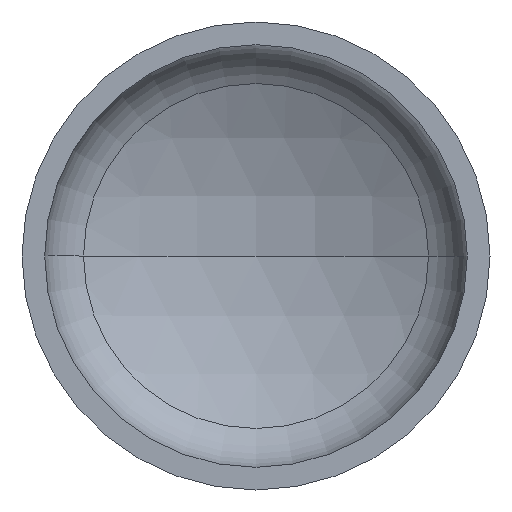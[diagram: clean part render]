
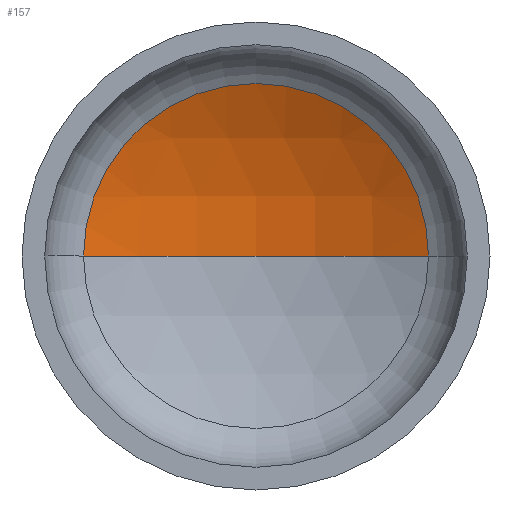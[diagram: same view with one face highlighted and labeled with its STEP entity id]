
A CAD part, front view. The second image highlights one B-rep face of the part: STEP entity #157.
In plain terms, the highlighted spherical face has radius 1120 mm.
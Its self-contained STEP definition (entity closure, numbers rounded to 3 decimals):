
#10 = EDGE_LOOP ( 'NONE', ( #37, #23, #155 ) ) ;
#23 = ORIENTED_EDGE ( 'NONE', *, *, #159, .T. ) ;
#37 = ORIENTED_EDGE ( 'NONE', *, *, #163, .F. ) ;
#46 = AXIS2_PLACEMENT_3D ( 'NONE', #214, #259, #255 ) ;
#47 = AXIS2_PLACEMENT_3D ( 'NONE', #170, #206, #209 ) ;
#51 = VERTEX_POINT ( 'NONE', #246 ) ;
#54 = AXIS2_PLACEMENT_3D ( 'NONE', #378, #223, #305 ) ;
#61 = AXIS2_PLACEMENT_3D ( 'NONE', #355, #310, #65 ) ;
#65 = DIRECTION ( 'NONE',  ( 1., 0., 0. ) ) ;
#123 = FACE_OUTER_BOUND ( 'NONE', #10, .T. ) ;
#143 = VERTEX_POINT ( 'NONE', #303 ) ;
#155 = ORIENTED_EDGE ( 'NONE', *, *, #158, .T. ) ;
#157 = ADVANCED_FACE ( 'NONE', ( #123 ), #229, .F. ) ;
#158 = EDGE_CURVE ( 'NONE', #191, #51, #404, .T. ) ;
#159 = EDGE_CURVE ( 'NONE', #143, #191, #354, .T. ) ;
#163 = EDGE_CURVE ( 'NONE', #143, #51, #289, .T. ) ;
#170 = CARTESIAN_POINT ( 'NONE',  ( 0., -683.204, 0. ) ) ;
#191 = VERTEX_POINT ( 'NONE', #217 ) ;
#206 = DIRECTION ( 'NONE',  ( 0., 0., -1. ) ) ;
#209 = DIRECTION ( 'NONE',  ( -1., 0., 0. ) ) ;
#214 = CARTESIAN_POINT ( 'NONE',  ( 0., -683.204, 0. ) ) ;
#217 = CARTESIAN_POINT ( 'NONE',  ( 516.066, 310.816, 0. ) ) ;
#223 = DIRECTION ( 'NONE',  ( 0., 0., -1. ) ) ;
#229 = SPHERICAL_SURFACE ( 'NONE', #54, 1120. ) ;
#246 = CARTESIAN_POINT ( 'NONE',  ( -516.066, 310.816, 0. ) ) ;
#255 = DIRECTION ( 'NONE',  ( 1., 0., 0. ) ) ;
#259 = DIRECTION ( 'NONE',  ( 0., 0., 1. ) ) ;
#289 = CIRCLE ( 'NONE', #46, 1120. ) ;
#303 = CARTESIAN_POINT ( 'NONE',  ( 0., 436.796, 0. ) ) ;
#305 = DIRECTION ( 'NONE',  ( -1., 0., 0. ) ) ;
#310 = DIRECTION ( 'NONE',  ( 0., -1., 0. ) ) ;
#354 = CIRCLE ( 'NONE', #47, 1120. ) ;
#355 = CARTESIAN_POINT ( 'NONE',  ( 0., 310.816, 0. ) ) ;
#378 = CARTESIAN_POINT ( 'NONE',  ( 0., -683.204, 0. ) ) ;
#404 = CIRCLE ( 'NONE', #61, 516.066 ) ;
